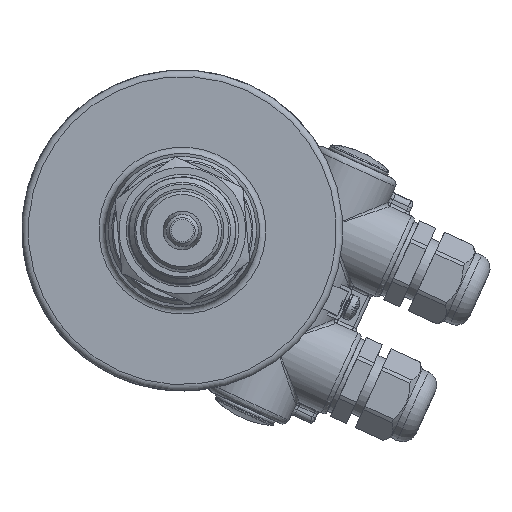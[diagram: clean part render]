
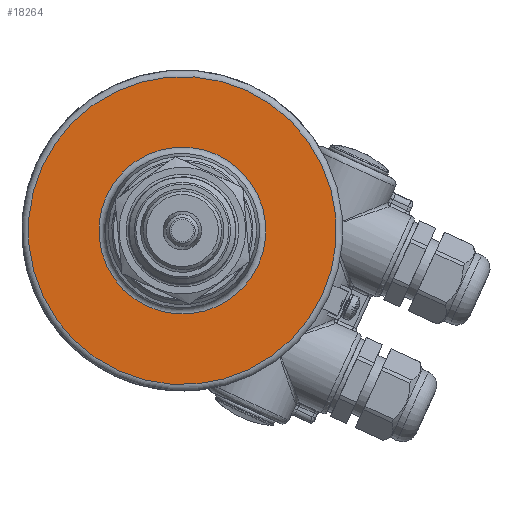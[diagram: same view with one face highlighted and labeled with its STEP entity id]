
A CAD part, front view. The second image highlights one B-rep face of the part: STEP entity #18264.
In plain terms, the highlighted planar face has unit normal (0, -1, 0) as drawn and (-1, 0, 0) by its records, which use the part's own axes.
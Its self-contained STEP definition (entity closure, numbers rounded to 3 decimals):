
#1455=FACE_BOUND('',#5075,.T.);
#2592=PLANE('',#20149);
#3710=FACE_OUTER_BOUND('',#5074,.T.);
#5074=EDGE_LOOP('',(#16709));
#5075=EDGE_LOOP('',(#16710));
#7545=CIRCLE('',#20148,26.014);
#7546=CIRCLE('',#20150,48.);
#9175=VERTEX_POINT('',#48441);
#9176=VERTEX_POINT('',#48444);
#11710=EDGE_CURVE('',#9175,#9175,#7545,.T.);
#11711=EDGE_CURVE('',#9176,#9176,#7546,.T.);
#16709=ORIENTED_EDGE('',*,*,#11711,.F.);
#16710=ORIENTED_EDGE('',*,*,#11710,.T.);
#18264=ADVANCED_FACE('',(#3710,#1455),#2592,.T.);
#20148=AXIS2_PLACEMENT_3D('',#48442,#24569,#24570);
#20149=AXIS2_PLACEMENT_3D('',#48443,#24571,#24572);
#20150=AXIS2_PLACEMENT_3D('',#48445,#24573,#24574);
#24569=DIRECTION('center_axis',(1.,0.,0.));
#24570=DIRECTION('ref_axis',(0.,1.,0.));
#24571=DIRECTION('center_axis',(-1.,0.,0.));
#24572=DIRECTION('ref_axis',(0.,0.,1.));
#24573=DIRECTION('center_axis',(1.,0.,0.));
#24574=DIRECTION('ref_axis',(0.,1.,0.));
#48441=CARTESIAN_POINT('',(-4.,26.014,0.));
#48442=CARTESIAN_POINT('Origin',(-4.,0.,0.));
#48443=CARTESIAN_POINT('Origin',(-4.,37.007,0.));
#48444=CARTESIAN_POINT('',(-4.,48.,0.));
#48445=CARTESIAN_POINT('Origin',(-4.,0.,0.));
